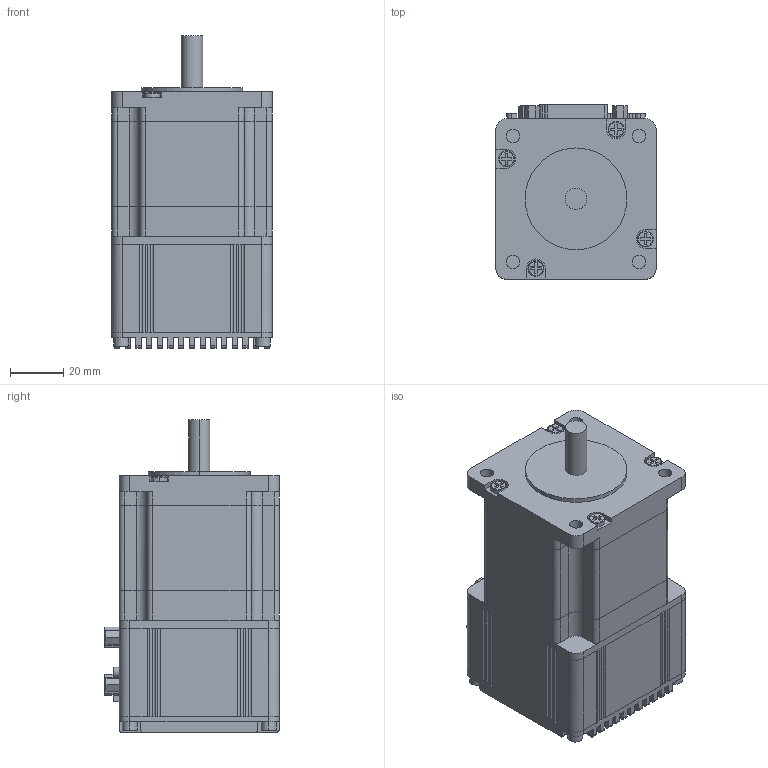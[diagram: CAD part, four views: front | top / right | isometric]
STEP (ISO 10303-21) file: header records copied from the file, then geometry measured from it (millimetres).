
FILE_DESCRIPTION (( 'STEP AP203' ), '1' );
FILE_NAME ('CSBL1100-350B.STEP', '2015-01-22T03:53:20', ( 'L5' ), ( 'L5' ), 'SwSTEP 2.0', 'SolidWorks 2010', '' );
FILE_SCHEMA (( 'CONFIG_CONTROL_DESIGN' ));
Length unit declared in the file: millimetre
Products named in the file (1): CSBL1100-350B
Bounding box: 60 x 65.4 x 117 mm (x, y, z)
Volume: 320359.3 mm3; surface area: 39587.7 mm2
Topology: 1 solids, 1 shells, 681 faces, 1668 edges, 1060 vertices
Faces by surface type: plane 457, cylinder 216, torus 8
Entity records: 20129 total; most frequent: CARTESIAN_POINT 3752, DIRECTION 3406, ORIENTED_EDGE 3336, EDGE_CURVE 1668, VECTOR 1146, LINE 1146, AXIS2_PLACEMENT_3D 1130, VERTEX_POINT 1060
